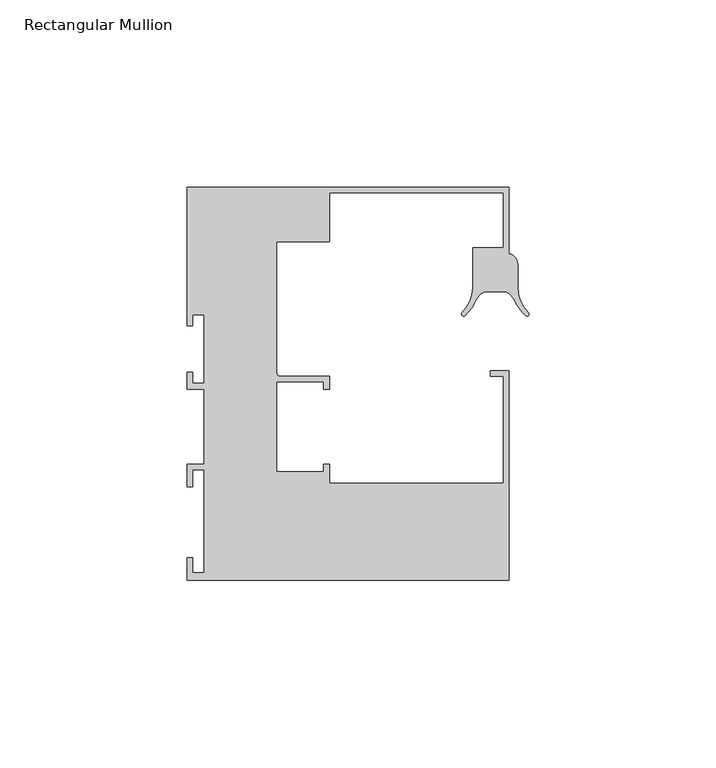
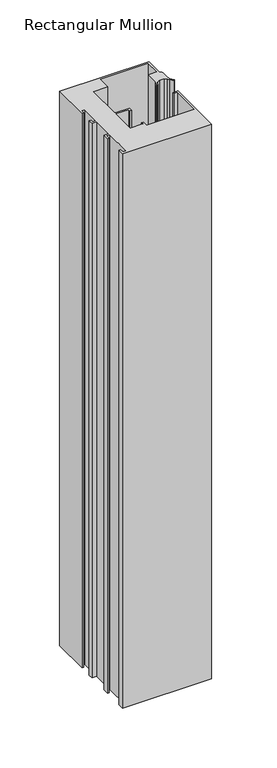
"""IFC4 building model written with IfcOpenShell, lengths in millimetres: member geometry, Rectangular Mullion : Danpal_Airpt_End-Mullion_B1."""

from ifc_helpers import new_model, si_unit, point, frame, frame_2d, origin, place, context, project, spatial, polyline, circle_curve, trimmed, segment, composite_curve, outline, extrude, source, transform, mapped, element, save


def rectangular_mullion_ca9a3e23(model_context):
    return source(origin(), model_context, "Body", "SweptSolid", [
        extrude(outline(composite_curve([segment(polyline([(28.3319078, -44.249979), (28.3319078, -15.7500001), (24.8319078, -15.7500001), (24.8319078, -14.2500001), (29.8319078, -14.2500001), (29.8319078, -70.2500001), (-56.1680922, -70.2500001), (-56.1680922, -64.2500001), (-54.6680922, -64.2500001), (-54.6680922, -68.2500001), (-51.6680922, -68.2500001), (-51.6680922, -40.7500001), (-54.6499985, -40.7500001), (-54.6499985, -45.2500001), (-56.1499985, -45.2500001), (-56.1499985, -39.2500001), (-51.6680922, -39.2500001), (-51.6680922, -19.25), (-56.15, -19.25), (-56.15, -14.65), (-54.65, -14.65), (-54.65, -17.65), (-51.65, -17.65), (-51.65, 0.75), (-54.65, 0.75), (-54.65, -2.25), (-56.15, -2.25), (-56.15, 34.75), (29.8499992, 34.75), (29.8499992, 17.0365625)]), True, "CONTINUOUS"), segment(trimmed(circle_curve(frame_2d((29.1986238, 14.1081309)), 3.0000002), [point((29.8499992, 17.0365625))], [point((32.1986067, 14.1183419))], False, "CARTESIAN"), True, "CONTINUOUS"), segment(polyline([(32.1986067, 14.1183419), (32.1986067, 8.1181379)]), True, "CONTINUOUS"), segment(trimmed(circle_curve(frame_2d((42.198548, 8.1523787)), 10.0), [point((32.1986067, 8.1181379))], [point((35.0108364, 1.1999114))], True, "CARTESIAN"), True, "CONTINUOUS"), segment(trimmed(circle_curve(frame_2d((34.6513305, 0.8521716)), 0.5001675), [point((35.0108364, 1.1999114))], [point((34.3289194, 0.4697862))], False, "CARTESIAN"), True, "CONTINUOUS"), segment(trimmed(circle_curve(frame_2d((40.774981, 8.114934)), 9.9999998), [point((34.3289194, 0.4697862))], [point((31.7608489, 3.785336))], False, "CARTESIAN"), True, "CONTINUOUS"), segment(trimmed(circle_curve(frame_2d((22.7467169, -0.544262)), 9.9999997), [point((31.7608489, 3.785336))], [point((30.5309383, 5.7331494))], True, "CARTESIAN"), True, "CONTINUOUS"), segment(trimmed(circle_curve(frame_2d((28.1956718, 3.8499259)), 3.0), [point((30.5309383, 5.7331494))], [point((28.1956718, 6.8499259))], True, "CARTESIAN"), True, "CONTINUOUS"), segment(polyline([(28.1956718, 6.8499259), (24.1570278, 6.8499259)]), True, "CONTINUOUS"), segment(trimmed(circle_curve(frame_2d((24.1570278, 3.8499259)), 3.0), [point((24.1570278, 6.8499259))], [point((21.8217605, 5.7331484))], True, "CARTESIAN"), True, "CONTINUOUS"), segment(trimmed(circle_curve(frame_2d((29.6059846, -0.5442599)), 10.0), [point((21.8217605, 5.7331484))], [point((20.5918518, 3.7853369))], True, "CARTESIAN"), True, "CONTINUOUS"), segment(trimmed(circle_curve(frame_2d((11.5777192, 8.1149337)), 9.9999997), [point((20.5918518, 3.7853369))], [point((18.026354, 0.4719563))], False, "CARTESIAN"), True, "CONTINUOUS"), segment(trimmed(circle_curve(frame_2d((17.7037094, 0.8543575)), 0.5003301), [point((18.026354, 0.4719563))], [point((17.3439806, 1.2021009))], False, "CARTESIAN"), True, "CONTINUOUS"), segment(trimmed(circle_curve(frame_2d((10.1541518, 8.1523787)), 10.0), [point((17.3439806, 1.2021009))], [point((20.1500023, 7.8643287))], True, "CARTESIAN"), True, "CONTINUOUS"), segment(polyline([(20.1500023, 7.8643287), (20.1500023, 18.6499969), (28.3500023, 18.6499969), (28.3500023, 33.2499969), (-18.1500023, 33.2499969), (-18.1500023, 20.2499969), (-32.2500023, 20.2499969), (-32.2500023, -14.698377)]), True, "CONTINUOUS"), segment(trimmed(circle_curve(frame_2d((-31.1983762, -14.698377)), 1.0516261), [point((-32.2500023, -14.698377))], [point((-31.1983762, -15.7500031))], True, "CARTESIAN"), True, "CONTINUOUS"), segment(polyline([(-31.1983762, -15.7500031), (-18.1500023, -15.7500031), (-18.1500023, -19.2500031), (-19.7500023, -19.2500031), (-19.7500023, -17.2500031), (-32.2500023, -17.2500031), (-32.2500023, -41.2500001), (-19.7680922, -41.2500001), (-19.7680922, -39.2500001), (-18.1680922, -39.2500001), (-18.1680922, -44.249979), (28.3319078, -44.249979)]), True, "CONTINUOUS")], self_intersect=False)), frame((0.0, 0.0, -565.3514979), z_axis=(0.0, 0.0, 1.0), x_axis=(1.0, 0.0, 0.0)), (0.0, 0.0, 1.0), 565.3514979),
    ])


if __name__ == "__main__":
    model = new_model("IFC4")
    model_context = context("Model", 3, world=origin())
    ifc_project = project(units=[si_unit("LENGTHUNIT", "METRE", prefix="MILLI")], contexts=[model_context])
    site = spatial("IfcSite", under=ifc_project)
    building = spatial("IfcBuilding", under=site)
    placement = place(None, origin())
    rectangular_mullion_shape = rectangular_mullion_ca9a3e23(model_context)
    element("IfcMember", 1, ObjectType="Rectangular Mullion : Danpal_Airpt_End-Mullion_B1", at=placement, inside=building, context=model_context, shape_type="MappedRepresentation", body=[
        mapped(rectangular_mullion_shape, transform((0.0, 0.0, 0.0), x_axis=(1.0, 0.0, 0.0), y_axis=(0.0, 1.0, 0.0), z_axis=(0.0, 0.0, 1.0))),
    ])
    save(model, "model.ifc")
